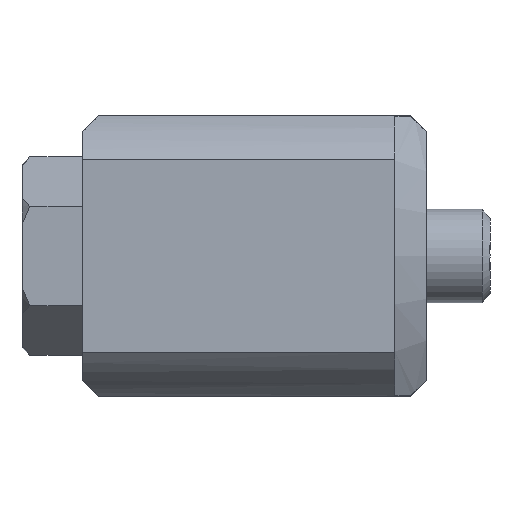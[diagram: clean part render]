
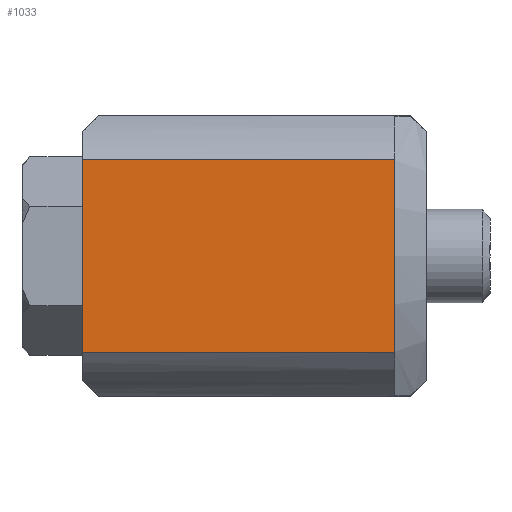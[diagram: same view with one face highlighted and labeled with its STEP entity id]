
A CAD part, left-side view. The second image highlights one B-rep face of the part: STEP entity #1033.
In plain terms, the highlighted planar face has unit normal (-1, 0, 0).
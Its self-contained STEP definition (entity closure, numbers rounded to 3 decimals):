
#123=PLANE('',#1228);
#167=FACE_OUTER_BOUND('',#237,.T.);
#237=EDGE_LOOP('',(#787,#788,#789,#790));
#303=LINE('',#1720,#366);
#307=LINE('',#1741,#370);
#317=LINE('',#1769,#380);
#318=LINE('',#1770,#381);
#366=VECTOR('',#1391,10.);
#370=VECTOR('',#1409,10.);
#380=VECTOR('',#1439,10.);
#381=VECTOR('',#1440,10.);
#492=VERTEX_POINT('',#1716);
#494=VERTEX_POINT('',#1719);
#503=VERTEX_POINT('',#1738);
#504=VERTEX_POINT('',#1740);
#593=EDGE_CURVE('',#494,#492,#303,.T.);
#603=EDGE_CURVE('',#504,#503,#307,.T.);
#618=EDGE_CURVE('',#492,#504,#317,.T.);
#619=EDGE_CURVE('',#494,#503,#318,.T.);
#787=ORIENTED_EDGE('',*,*,#593,.T.);
#788=ORIENTED_EDGE('',*,*,#618,.T.);
#789=ORIENTED_EDGE('',*,*,#603,.T.);
#790=ORIENTED_EDGE('',*,*,#619,.F.);
#1033=ADVANCED_FACE('',(#167),#123,.T.);
#1228=AXIS2_PLACEMENT_3D('',#1768,#1437,#1438);
#1391=DIRECTION('',(0.,-1.,0.));
#1409=DIRECTION('',(0.,1.,0.));
#1437=DIRECTION('center_axis',(-1.,0.,0.));
#1438=DIRECTION('ref_axis',(0.,0.,1.));
#1439=DIRECTION('',(0.,0.,1.));
#1440=DIRECTION('',(0.,0.,1.));
#1716=CARTESIAN_POINT('',(-7.85,2.,-6.195));
#1719=CARTESIAN_POINT('',(-7.85,22.,-6.195));
#1720=CARTESIAN_POINT('',(-7.85,22.,-6.195));
#1738=CARTESIAN_POINT('',(-7.85,22.,6.195));
#1740=CARTESIAN_POINT('',(-7.85,2.,6.195));
#1741=CARTESIAN_POINT('',(-7.85,22.,6.195));
#1768=CARTESIAN_POINT('Origin',(-7.85,0.,-10.));
#1769=CARTESIAN_POINT('',(-7.85,2.,-5.));
#1770=CARTESIAN_POINT('',(-7.85,22.,-10.));
